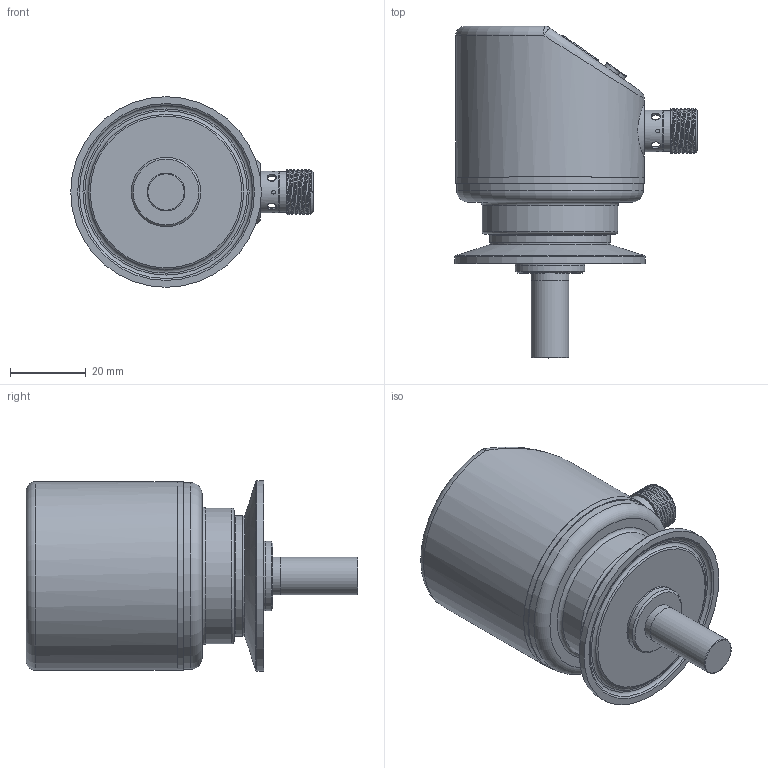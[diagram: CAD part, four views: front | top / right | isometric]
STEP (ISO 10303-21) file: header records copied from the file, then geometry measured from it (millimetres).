
FILE_DESCRIPTION (( 'STEP AP214' ), '1' );
FILE_NAME ('卡盘热式数显.STEP', '2025-03-11T05:36:25', ( '' ), ( '' ), 'SwSTEP 2.0', 'SolidWorks 2020', '' );
FILE_SCHEMA (( 'AUTOMOTIVE_DESIGN' ));
Length unit declared in the file: millimetre
Products named in the file (12): 抻芛俋蹟恇; 揤薯秞脫蛌諉芛; 卡盘热式数显; 防水接头壳体1_默认<按加工>; 音叉热式变径管2; 偌瑩簽; 揤薯珆尨欶; 123; 揤薯奻裔; 45秞脫縐攫; PVC躇猾菜; 揤薯換覜ん抻芛
Assembly tree (13 placements, depth 3):
  卡盘热式数显
    揤薯奻裔
    揤薯珆尨欶
    防水接头壳体1_默认<按加工>
    偌瑩簽  x3
    PVC躇猾菜
    揤薯換覜ん抻芛
      抻芛俋蹟恇
    123
    揤薯秞脫蛌諉芛
    音叉热式变径管2
    45秞脫縐攫
Bounding box: 64.25 x 87.9 x 50.5 mm (x, y, z)
Volume: 30996.8 mm3; surface area: 37015.9 mm2
Topology: 12 solids, 12 shells, 376 faces, 852 edges, 554 vertices
Faces by surface type: plane 142, cylinder 141, cone 58, bspline 17, torus 14, sphere 4
Full cylindrical faces by diameter (mm): 1 x4, 1.2 x3, 1.8 x1, 2 x19, 2.2 x6, 2.5 x6, 2.8 x1, 4.3 x3, 4.5 x6, 6 x1, 7.3 x1, 8 x1, 9 x2, 9.8 x1, 10 x2, 10.8 x1, 11 x2, 16.8 x1, 17 x2, 18.4 x2, 21.5 x1, 26 x1, 27.2 x1, 27.5 x1, 27.6 x1, 30 x2, 30.04 x2, 30.1 x1, 32 x2, 32.34 x1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
Entity records: 15778 total; most frequent: CARTESIAN_POINT 8405, DIRECTION 1460, ORIENTED_EDGE 1140, AXIS2_PLACEMENT_3D 614, EDGE_CURVE 570, EDGE_LOOP 541, VERTEX_POINT 433, FACE_OUTER_BOUND 407
